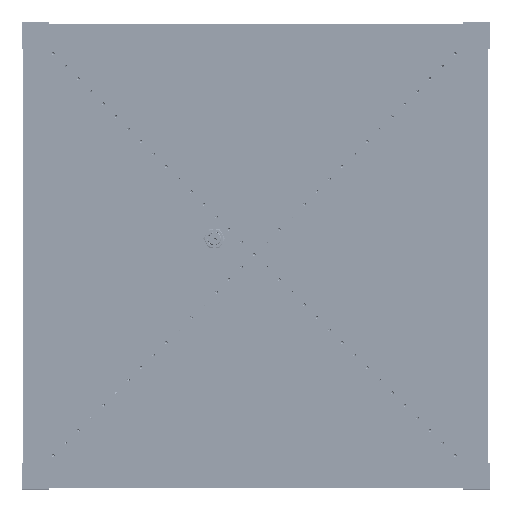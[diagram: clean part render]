
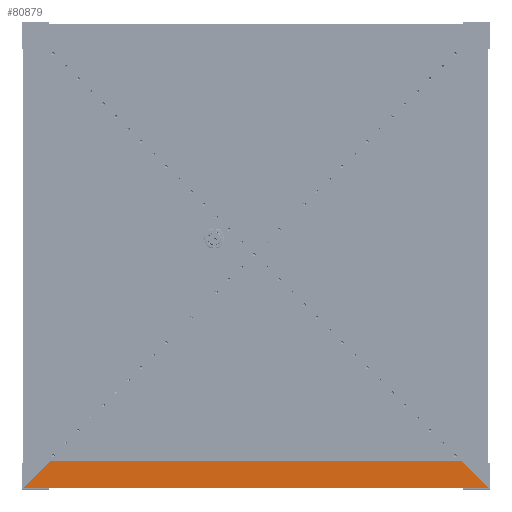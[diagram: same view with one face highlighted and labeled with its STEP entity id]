
A CAD part, top view. The second image highlights one B-rep face of the part: STEP entity #80879.
In plain terms, the highlighted planar face has unit normal (0, 0, 1) as drawn and (0, 1, 0) by its records, which use the part's own axes.
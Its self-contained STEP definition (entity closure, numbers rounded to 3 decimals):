
#4351 = CARTESIAN_POINT ( 'NONE',  ( -15., 15., 0. ) ) ;
#4490 = CARTESIAN_POINT ( 'NONE',  ( 15., 15., 30. ) ) ;
#4512 = CARTESIAN_POINT ( 'NONE',  ( 15., 15., 492. ) ) ;
#4514 = CARTESIAN_POINT ( 'NONE',  ( -15., 15., 522. ) ) ;
#5425 = VERTEX_POINT ( 'NONE', #4351 ) ;
#5503 = VERTEX_POINT ( 'NONE', #4514 ) ;
#5545 = VERTEX_POINT ( 'NONE', #4490 ) ;
#5583 = VERTEX_POINT ( 'NONE', #4512 ) ;
#50797 = AXIS2_PLACEMENT_3D ( 'NONE', #106549, #106569, #106526 ) ;
#80879 = ADVANCED_FACE ( 'NONE', ( #113957 ), #106496, .F. ) ;
#86774 = ORIENTED_EDGE ( 'NONE', *, *, #362066, .F. ) ;
#86784 = ORIENTED_EDGE ( 'NONE', *, *, #361978, .T. ) ;
#87057 = ORIENTED_EDGE ( 'NONE', *, *, #362090, .F. ) ;
#87101 = ORIENTED_EDGE ( 'NONE', *, *, #362133, .F. ) ;
#106496 = PLANE ( 'NONE',  #50797 ) ;
#106526 = DIRECTION ( 'NONE',  ( 0., 0., -1. ) ) ;
#106549 = CARTESIAN_POINT ( 'NONE',  ( -15., 15., 522. ) ) ;
#106569 = DIRECTION ( 'NONE',  ( 0., -1., 0. ) ) ;
#113957 = FACE_OUTER_BOUND ( 'NONE', #375737, .T. ) ;
#207501 = LINE ( 'NONE', #266788, #207609 ) ;
#207609 = VECTOR ( 'NONE', #266776, 1000. ) ;
#207978 = LINE ( 'NONE', #266985, #207984 ) ;
#207984 = VECTOR ( 'NONE', #266972, 1000. ) ;
#208225 = LINE ( 'NONE', #266950, #208323 ) ;
#208298 = LINE ( 'NONE', #264456, #208420 ) ;
#208323 = VECTOR ( 'NONE', #264285, 1000. ) ;
#208420 = VECTOR ( 'NONE', #264459, 1000. ) ;
#264285 = DIRECTION ( 'NONE',  ( -0.707, 0., 0.707 ) ) ;
#264456 = CARTESIAN_POINT ( 'NONE',  ( -15., 15., 0. ) ) ;
#264459 = DIRECTION ( 'NONE',  ( 0.707, 0., 0.707 ) ) ;
#266776 = DIRECTION ( 'NONE',  ( 0., 0., -1. ) ) ;
#266788 = CARTESIAN_POINT ( 'NONE',  ( 15., 15., 522. ) ) ;
#266950 = CARTESIAN_POINT ( 'NONE',  ( -15., 15., 522. ) ) ;
#266972 = DIRECTION ( 'NONE',  ( 0., 0., -1. ) ) ;
#266985 = CARTESIAN_POINT ( 'NONE',  ( -15., 15., 522. ) ) ;
#361978 = EDGE_CURVE ( 'NONE', #5583, #5545, #207501, .T. ) ;
#362066 = EDGE_CURVE ( 'NONE', #5503, #5425, #207978, .T. ) ;
#362090 = EDGE_CURVE ( 'NONE', #5583, #5503, #208225, .T. ) ;
#362133 = EDGE_CURVE ( 'NONE', #5425, #5545, #208298, .T. ) ;
#375737 = EDGE_LOOP ( 'NONE', ( #86774, #87057, #86784, #87101 ) ) ;
